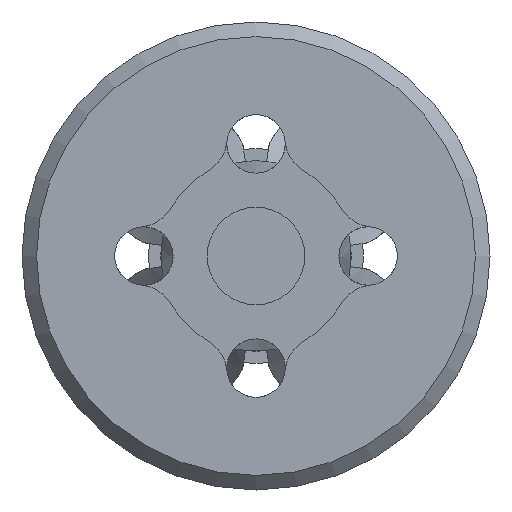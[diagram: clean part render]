
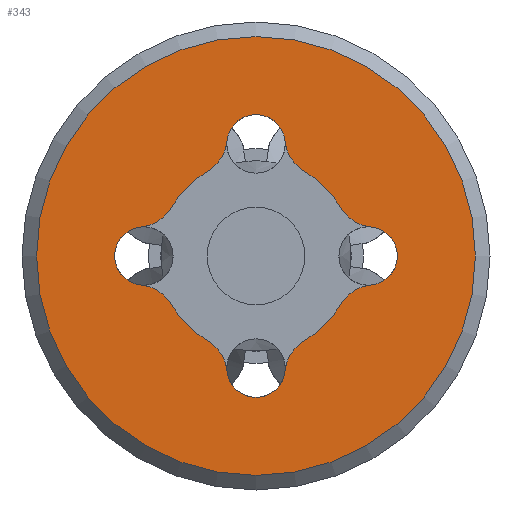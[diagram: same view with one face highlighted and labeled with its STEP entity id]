
A CAD part, front view. The second image highlights one B-rep face of the part: STEP entity #343.
In plain terms, the highlighted planar face has unit normal (0, -1, 0).
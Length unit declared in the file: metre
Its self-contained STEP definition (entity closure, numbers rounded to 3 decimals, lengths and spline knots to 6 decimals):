
#343 = ADVANCED_FACE( '', ( #862, #863 ), #864, .T. );
#862 = FACE_OUTER_BOUND( '', #1716, .T. );
#863 = FACE_BOUND( '', #1717, .T. );
#864 = PLANE( '', #1718 );
#1716 = EDGE_LOOP( '', ( #3389 ) );
#1717 = EDGE_LOOP( '', ( #3390, #3391, #3392, #3393, #3394, #3395, #3396, #3397, #3398, #3399, #3400, #3401, #3402, #3403, #3404, #3405 ) );
#1718 = AXIS2_PLACEMENT_3D( '', #3406, #3407, #3408 );
#3389 = ORIENTED_EDGE( '', *, *, #5606, .T. );
#3390 = ORIENTED_EDGE( '', *, *, #5596, .F. );
#3391 = ORIENTED_EDGE( '', *, *, #5633, .T. );
#3392 = ORIENTED_EDGE( '', *, *, #5634, .F. );
#3393 = ORIENTED_EDGE( '', *, *, #5635, .T. );
#3394 = ORIENTED_EDGE( '', *, *, #5636, .F. );
#3395 = ORIENTED_EDGE( '', *, *, #5637, .T. );
#3396 = ORIENTED_EDGE( '', *, *, #5552, .F. );
#3397 = ORIENTED_EDGE( '', *, *, #5638, .T. );
#3398 = ORIENTED_EDGE( '', *, *, #5639, .F. );
#3399 = ORIENTED_EDGE( '', *, *, #5640, .T. );
#3400 = ORIENTED_EDGE( '', *, *, #5629, .F. );
#3401 = ORIENTED_EDGE( '', *, *, #5641, .T. );
#3402 = ORIENTED_EDGE( '', *, *, #5642, .F. );
#3403 = ORIENTED_EDGE( '', *, *, #5643, .T. );
#3404 = ORIENTED_EDGE( '', *, *, #5644, .F. );
#3405 = ORIENTED_EDGE( '', *, *, #5645, .T. );
#3406 = CARTESIAN_POINT( '', ( 0., -0.02425, 0. ) );
#3407 = DIRECTION( '', ( 0., -1., 0. ) );
#3408 = DIRECTION( '', ( 1., 0., 0. ) );
#5552 = EDGE_CURVE( '', #6511, #6512, #6513, .T. );
#5596 = EDGE_CURVE( '', #6582, #6584, #6585, .T. );
#5606 = EDGE_CURVE( '', #6600, #6600, #6601, .T. );
#5629 = EDGE_CURVE( '', #6641, #6642, #6643, .T. );
#5633 = EDGE_CURVE( '', #6582, #6647, #6648, .T. );
#5634 = EDGE_CURVE( '', #6649, #6647, #6650, .T. );
#5635 = EDGE_CURVE( '', #6649, #6651, #6652, .T. );
#5636 = EDGE_CURVE( '', #6653, #6651, #6654, .T. );
#5637 = EDGE_CURVE( '', #6653, #6512, #6655, .T. );
#5638 = EDGE_CURVE( '', #6511, #6656, #6657, .T. );
#5639 = EDGE_CURVE( '', #6658, #6656, #6659, .T. );
#5640 = EDGE_CURVE( '', #6658, #6642, #6660, .T. );
#5641 = EDGE_CURVE( '', #6641, #6661, #6662, .T. );
#5642 = EDGE_CURVE( '', #6663, #6661, #6664, .T. );
#5643 = EDGE_CURVE( '', #6663, #6665, #6666, .T. );
#5644 = EDGE_CURVE( '', #6667, #6665, #6668, .T. );
#5645 = EDGE_CURVE( '', #6667, #6584, #6669, .T. );
#6511 = VERTEX_POINT( '', #8334 );
#6512 = VERTEX_POINT( '', #8335 );
#6513 = CIRCLE( '', #8336, 0.0015 );
#6582 = VERTEX_POINT( '', #8460 );
#6584 = VERTEX_POINT( '', #8463 );
#6585 = CIRCLE( '', #8464, 0.005 );
#6600 = VERTEX_POINT( '', #8488 );
#6601 = CIRCLE( '', #8489, 0.01125 );
#6641 = VERTEX_POINT( '', #8602 );
#6642 = VERTEX_POINT( '', #8603 );
#6643 = CIRCLE( '', #8604, 0.0015 );
#6647 = VERTEX_POINT( '', #8610 );
#6648 = CIRCLE( '', #8611, 0.002 );
#6649 = VERTEX_POINT( '', #8612 );
#6650 = CIRCLE( '', #8613, 0.0015 );
#6651 = VERTEX_POINT( '', #8614 );
#6652 = CIRCLE( '', #8615, 0.002 );
#6653 = VERTEX_POINT( '', #8616 );
#6654 = CIRCLE( '', #8617, 0.005 );
#6655 = CIRCLE( '', #8618, 0.002 );
#6656 = VERTEX_POINT( '', #8619 );
#6657 = CIRCLE( '', #8620, 0.002 );
#6658 = VERTEX_POINT( '', #8621 );
#6659 = CIRCLE( '', #8622, 0.005 );
#6660 = CIRCLE( '', #8623, 0.002 );
#6661 = VERTEX_POINT( '', #8624 );
#6662 = CIRCLE( '', #8625, 0.002 );
#6663 = VERTEX_POINT( '', #8626 );
#6664 = CIRCLE( '', #8627, 0.005 );
#6665 = VERTEX_POINT( '', #8628 );
#6666 = CIRCLE( '', #8629, 0.002 );
#6667 = VERTEX_POINT( '', #8630 );
#6668 = CIRCLE( '', #8631, 0.0015 );
#6669 = CIRCLE( '', #8632, 0.002 );
#8334 = CARTESIAN_POINT( '', ( -0.005887, -0.02425, 0.001494 ) );
#8335 = CARTESIAN_POINT( '', ( -0.005887, -0.02425, -0.001494 ) );
#8336 = AXIS2_PLACEMENT_3D( '', #11228, #11229, #11230 );
#8460 = CARTESIAN_POINT( '', ( 0.002489, -0.02425, -0.004336 ) );
#8463 = CARTESIAN_POINT( '', ( 0.004336, -0.02425, -0.002489 ) );
#8464 = AXIS2_PLACEMENT_3D( '', #11289, #11290, #11291 );
#8488 = CARTESIAN_POINT( '', ( 0., -0.02425, -0.01125 ) );
#8489 = AXIS2_PLACEMENT_3D( '', #11302, #11303, #11304 );
#8602 = CARTESIAN_POINT( '', ( 0.001494, -0.02425, 0.005887 ) );
#8603 = CARTESIAN_POINT( '', ( -0.001494, -0.02425, 0.005887 ) );
#8604 = AXIS2_PLACEMENT_3D( '', #11327, #11328, #11329 );
#8610 = CARTESIAN_POINT( '', ( 0.001494, -0.02425, -0.005887 ) );
#8611 = AXIS2_PLACEMENT_3D( '', #11332, #11333, #11334 );
#8612 = CARTESIAN_POINT( '', ( -0.001494, -0.02425, -0.005887 ) );
#8613 = AXIS2_PLACEMENT_3D( '', #11335, #11336, #11337 );
#8614 = CARTESIAN_POINT( '', ( -0.002489, -0.02425, -0.004336 ) );
#8615 = AXIS2_PLACEMENT_3D( '', #11338, #11339, #11340 );
#8616 = CARTESIAN_POINT( '', ( -0.004336, -0.02425, -0.002489 ) );
#8617 = AXIS2_PLACEMENT_3D( '', #11341, #11342, #11343 );
#8618 = AXIS2_PLACEMENT_3D( '', #11344, #11345, #11346 );
#8619 = CARTESIAN_POINT( '', ( -0.004336, -0.02425, 0.002489 ) );
#8620 = AXIS2_PLACEMENT_3D( '', #11347, #11348, #11349 );
#8621 = CARTESIAN_POINT( '', ( -0.002489, -0.02425, 0.004336 ) );
#8622 = AXIS2_PLACEMENT_3D( '', #11350, #11351, #11352 );
#8623 = AXIS2_PLACEMENT_3D( '', #11353, #11354, #11355 );
#8624 = CARTESIAN_POINT( '', ( 0.002489, -0.02425, 0.004336 ) );
#8625 = AXIS2_PLACEMENT_3D( '', #11356, #11357, #11358 );
#8626 = CARTESIAN_POINT( '', ( 0.004336, -0.02425, 0.002489 ) );
#8627 = AXIS2_PLACEMENT_3D( '', #11359, #11360, #11361 );
#8628 = CARTESIAN_POINT( '', ( 0.005887, -0.02425, 0.001494 ) );
#8629 = AXIS2_PLACEMENT_3D( '', #11362, #11363, #11364 );
#8630 = CARTESIAN_POINT( '', ( 0.005887, -0.02425, -0.001494 ) );
#8631 = AXIS2_PLACEMENT_3D( '', #11365, #11366, #11367 );
#8632 = AXIS2_PLACEMENT_3D( '', #11368, #11369, #11370 );
#11228 = CARTESIAN_POINT( '', ( -0.00575, -0.02425, 0. ) );
#11229 = DIRECTION( '', ( 0., -1., 0. ) );
#11230 = DIRECTION( '', ( 0., 0., -1. ) );
#11289 = CARTESIAN_POINT( '', ( 0., -0.02425, 0. ) );
#11290 = DIRECTION( '', ( 0., -1., 0. ) );
#11291 = DIRECTION( '', ( 0., 0., -1. ) );
#11302 = CARTESIAN_POINT( '', ( 0., -0.02425, 0. ) );
#11303 = DIRECTION( '', ( 0., -1., 0. ) );
#11304 = DIRECTION( '', ( 0., 0., -1. ) );
#11327 = CARTESIAN_POINT( '', ( 0., -0.02425, 0.00575 ) );
#11328 = DIRECTION( '', ( 0., -1., 0. ) );
#11329 = DIRECTION( '', ( 0., 0., -1. ) );
#11332 = CARTESIAN_POINT( '', ( 0.003485, -0.02425, -0.006071 ) );
#11333 = DIRECTION( '', ( 0., -1., 0. ) );
#11334 = DIRECTION( '', ( 0., 0., -1. ) );
#11335 = CARTESIAN_POINT( '', ( 0., -0.02425, -0.00575 ) );
#11336 = DIRECTION( '', ( 0., -1., 0. ) );
#11337 = DIRECTION( '', ( 0., 0., -1. ) );
#11338 = CARTESIAN_POINT( '', ( -0.003485, -0.02425, -0.006071 ) );
#11339 = DIRECTION( '', ( 0., -1., 0. ) );
#11340 = DIRECTION( '', ( 0., 0., -1. ) );
#11341 = CARTESIAN_POINT( '', ( 0., -0.02425, 0. ) );
#11342 = DIRECTION( '', ( 0., -1., 0. ) );
#11343 = DIRECTION( '', ( 0., 0., -1. ) );
#11344 = CARTESIAN_POINT( '', ( -0.006071, -0.02425, -0.003485 ) );
#11345 = DIRECTION( '', ( 0., -1., 0. ) );
#11346 = DIRECTION( '', ( 0., 0., -1. ) );
#11347 = CARTESIAN_POINT( '', ( -0.006071, -0.02425, 0.003485 ) );
#11348 = DIRECTION( '', ( 0., -1., 0. ) );
#11349 = DIRECTION( '', ( 0., 0., -1. ) );
#11350 = CARTESIAN_POINT( '', ( 0., -0.02425, 0. ) );
#11351 = DIRECTION( '', ( 0., -1., 0. ) );
#11352 = DIRECTION( '', ( 0., 0., -1. ) );
#11353 = CARTESIAN_POINT( '', ( -0.003485, -0.02425, 0.006071 ) );
#11354 = DIRECTION( '', ( 0., -1., 0. ) );
#11355 = DIRECTION( '', ( 0., 0., -1. ) );
#11356 = CARTESIAN_POINT( '', ( 0.003485, -0.02425, 0.006071 ) );
#11357 = DIRECTION( '', ( 0., -1., 0. ) );
#11358 = DIRECTION( '', ( 0., 0., -1. ) );
#11359 = CARTESIAN_POINT( '', ( 0., -0.02425, 0. ) );
#11360 = DIRECTION( '', ( 0., -1., 0. ) );
#11361 = DIRECTION( '', ( 0., 0., -1. ) );
#11362 = CARTESIAN_POINT( '', ( 0.006071, -0.02425, 0.003485 ) );
#11363 = DIRECTION( '', ( 0., -1., 0. ) );
#11364 = DIRECTION( '', ( 0., 0., -1. ) );
#11365 = CARTESIAN_POINT( '', ( 0.00575, -0.02425, 0. ) );
#11366 = DIRECTION( '', ( 0., -1., 0. ) );
#11367 = DIRECTION( '', ( 0., 0., -1. ) );
#11368 = CARTESIAN_POINT( '', ( 0.006071, -0.02425, -0.003485 ) );
#11369 = DIRECTION( '', ( 0., -1., 0. ) );
#11370 = DIRECTION( '', ( 0., 0., -1. ) );
